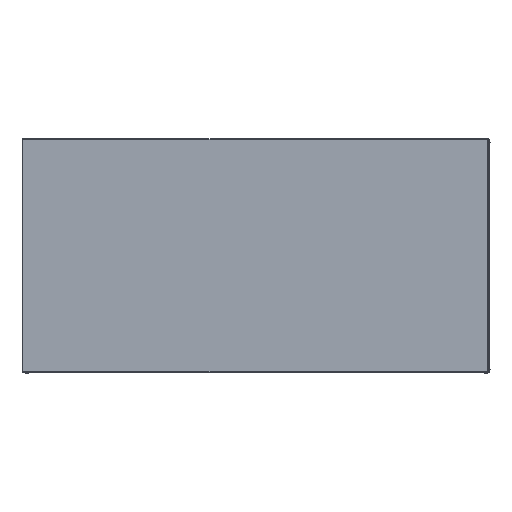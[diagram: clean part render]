
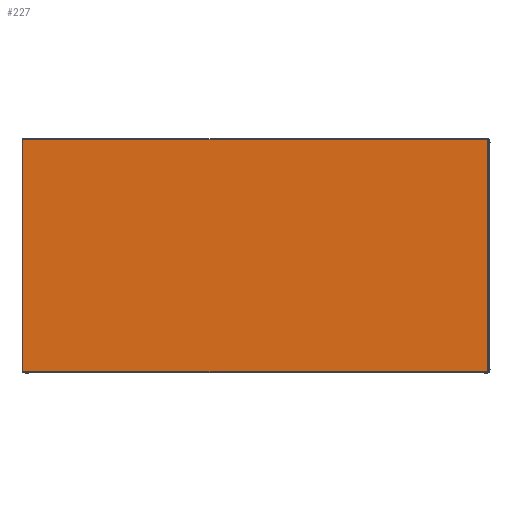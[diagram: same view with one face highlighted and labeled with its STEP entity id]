
A CAD part, top view. The second image highlights one B-rep face of the part: STEP entity #227.
In plain terms, the highlighted planar face has unit normal (0, 0, 1).
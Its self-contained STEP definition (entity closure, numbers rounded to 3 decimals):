
#37=(
BOUNDED_CURVE()
B_SPLINE_CURVE(1,(#2363,#2364),.UNSPECIFIED.,.F.,.F.)
B_SPLINE_CURVE_WITH_KNOTS((2,2),(150.,300.),
 .UNSPECIFIED.)
CURVE()
GEOMETRIC_REPRESENTATION_ITEM()
RATIONAL_B_SPLINE_CURVE((1.,1.))
REPRESENTATION_ITEM('')
);
#41=(
BOUNDED_CURVE()
B_SPLINE_CURVE(1,(#2371,#2372),.UNSPECIFIED.,.F.,.F.)
B_SPLINE_CURVE_WITH_KNOTS((2,2),(150.,300.),
 .UNSPECIFIED.)
CURVE()
GEOMETRIC_REPRESENTATION_ITEM()
RATIONAL_B_SPLINE_CURVE((1.,1.))
REPRESENTATION_ITEM('')
);
#44=(
BOUNDED_CURVE()
B_SPLINE_CURVE(1,(#2382,#2383),.UNSPECIFIED.,.F.,.F.)
B_SPLINE_CURVE_WITH_KNOTS((2,2),(0.,150.),.UNSPECIFIED.)
CURVE()
GEOMETRIC_REPRESENTATION_ITEM()
RATIONAL_B_SPLINE_CURVE((1.,1.))
REPRESENTATION_ITEM('')
);
#50=(
BOUNDED_CURVE()
B_SPLINE_CURVE(1,(#2396,#2397),.UNSPECIFIED.,.F.,.F.)
B_SPLINE_CURVE_WITH_KNOTS((2,2),(0.,150.),.UNSPECIFIED.)
CURVE()
GEOMETRIC_REPRESENTATION_ITEM()
RATIONAL_B_SPLINE_CURVE((1.,1.))
REPRESENTATION_ITEM('')
);
#227=ADVANCED_FACE('',(#320),#1379,.T.);
#320=FACE_OUTER_BOUND('',#418,.T.);
#418=EDGE_LOOP('',(#789,#790,#791,#792,#793,#794,#795,#796,#797,#798,#799,
#800));
#789=ORIENTED_EDGE('',*,*,#1014,.F.);
#790=ORIENTED_EDGE('',*,*,#1052,.T.);
#791=ORIENTED_EDGE('',*,*,#1035,.T.);
#792=ORIENTED_EDGE('',*,*,#1036,.T.);
#793=ORIENTED_EDGE('',*,*,#1020,.T.);
#794=ORIENTED_EDGE('',*,*,#960,.T.);
#795=ORIENTED_EDGE('',*,*,#1009,.T.);
#796=ORIENTED_EDGE('',*,*,#1004,.T.);
#797=ORIENTED_EDGE('',*,*,#987,.T.);
#798=ORIENTED_EDGE('',*,*,#988,.T.);
#799=ORIENTED_EDGE('',*,*,#1005,.F.);
#800=ORIENTED_EDGE('',*,*,#959,.F.);
#959=EDGE_CURVE('',#1278,#1279,#1171,.T.);
#960=EDGE_CURVE('',#1277,#1280,#1172,.T.);
#987=EDGE_CURVE('',#1303,#1304,#1185,.T.);
#988=EDGE_CURVE('',#1304,#1285,#1186,.T.);
#1004=EDGE_CURVE('',#1290,#1303,#1190,.T.);
#1005=EDGE_CURVE('',#1279,#1285,#37,.T.);
#1009=EDGE_CURVE('',#1280,#1290,#41,.T.);
#1014=EDGE_CURVE('',#1310,#1278,#44,.T.);
#1020=EDGE_CURVE('',#1312,#1277,#50,.T.);
#1035=EDGE_CURVE('',#1323,#1324,#1205,.T.);
#1036=EDGE_CURVE('',#1324,#1312,#1206,.T.);
#1052=EDGE_CURVE('',#1310,#1323,#1210,.T.);
#1171=B_SPLINE_CURVE_WITH_KNOTS('',1,(#2247,#2248),.UNSPECIFIED.,.F.,.F.,
(2,2),(0.,300.),.UNSPECIFIED.);
#1172=B_SPLINE_CURVE_WITH_KNOTS('',1,(#2249,#2250),.UNSPECIFIED.,.F.,.F.,
(2,2),(0.,300.),.UNSPECIFIED.);
#1185=B_SPLINE_CURVE_WITH_KNOTS('',1,(#2315,#2316),.UNSPECIFIED.,.F.,.F.,
(2,2),(1.,601.),.UNSPECIFIED.);
#1186=B_SPLINE_CURVE_WITH_KNOTS('',1,(#2317,#2318),.UNSPECIFIED.,.F.,.F.,
(2,2),(1.,301.),.UNSPECIFIED.);
#1190=B_SPLINE_CURVE_WITH_KNOTS('',1,(#2361,#2362),.UNSPECIFIED.,.F.,.F.,
(2,2),(301.,601.),.UNSPECIFIED.);
#1205=B_SPLINE_CURVE_WITH_KNOTS('',1,(#2427,#2428),.UNSPECIFIED.,.F.,.F.,
(2,2),(1.,601.),.UNSPECIFIED.);
#1206=B_SPLINE_CURVE_WITH_KNOTS('',1,(#2429,#2430),.UNSPECIFIED.,.F.,.F.,
(2,2),(1.,301.),.UNSPECIFIED.);
#1210=B_SPLINE_CURVE_WITH_KNOTS('',1,(#2473,#2474),.UNSPECIFIED.,.F.,.F.,
(2,2),(301.,601.),.UNSPECIFIED.);
#1277=VERTEX_POINT('',#2195);
#1278=VERTEX_POINT('',#2196);
#1279=VERTEX_POINT('',#2197);
#1280=VERTEX_POINT('',#2198);
#1285=VERTEX_POINT('',#2203);
#1290=VERTEX_POINT('',#2208);
#1303=VERTEX_POINT('',#2221);
#1304=VERTEX_POINT('',#2222);
#1310=VERTEX_POINT('',#2228);
#1312=VERTEX_POINT('',#2230);
#1323=VERTEX_POINT('',#2241);
#1324=VERTEX_POINT('',#2242);
#1379=PLANE('',#1448);
#1448=AXIS2_PLACEMENT_3D('',#2184,#1500,$);
#1500=DIRECTION('',(0.,0.,1.));
#2184=CARTESIAN_POINT('',(-304.395,-299.926,400.));
#2195=CARTESIAN_POINT('',(146.605,-298.926,400.));
#2196=CARTESIAN_POINT('',(146.605,301.074,400.));
#2197=CARTESIAN_POINT('',(446.605,301.074,400.));
#2198=CARTESIAN_POINT('',(446.605,-298.926,400.));
#2203=CARTESIAN_POINT('',(596.605,301.074,400.));
#2208=CARTESIAN_POINT('',(596.605,-298.926,400.));
#2221=CARTESIAN_POINT('',(896.605,-298.926,400.));
#2222=CARTESIAN_POINT('',(896.605,301.074,400.));
#2228=CARTESIAN_POINT('',(-3.395,301.074,400.));
#2230=CARTESIAN_POINT('',(-3.395,-298.926,400.));
#2241=CARTESIAN_POINT('',(-303.395,301.074,400.));
#2242=CARTESIAN_POINT('',(-303.395,-298.926,400.));
#2247=CARTESIAN_POINT('',(146.605,301.074,400.));
#2248=CARTESIAN_POINT('',(446.605,301.074,400.));
#2249=CARTESIAN_POINT('',(146.605,-298.926,400.));
#2250=CARTESIAN_POINT('',(446.605,-298.926,400.));
#2315=CARTESIAN_POINT('',(896.605,-298.926,400.));
#2316=CARTESIAN_POINT('',(896.605,301.074,400.));
#2317=CARTESIAN_POINT('',(896.605,301.074,400.));
#2318=CARTESIAN_POINT('',(596.605,301.074,400.));
#2361=CARTESIAN_POINT('',(596.605,-298.926,400.));
#2362=CARTESIAN_POINT('',(896.605,-298.926,400.));
#2363=CARTESIAN_POINT('',(446.605,301.074,400.));
#2364=CARTESIAN_POINT('',(596.605,301.074,400.));
#2371=CARTESIAN_POINT('',(446.605,-298.926,400.));
#2372=CARTESIAN_POINT('',(596.605,-298.926,400.));
#2382=CARTESIAN_POINT('',(-3.395,301.074,400.));
#2383=CARTESIAN_POINT('',(146.605,301.074,400.));
#2396=CARTESIAN_POINT('',(-3.395,-298.926,400.));
#2397=CARTESIAN_POINT('',(146.605,-298.926,400.));
#2427=CARTESIAN_POINT('',(-303.395,301.074,400.));
#2428=CARTESIAN_POINT('',(-303.395,-298.926,400.));
#2429=CARTESIAN_POINT('',(-303.395,-298.926,400.));
#2430=CARTESIAN_POINT('',(-3.395,-298.926,400.));
#2473=CARTESIAN_POINT('',(-3.395,301.074,400.));
#2474=CARTESIAN_POINT('',(-303.395,301.074,400.));
